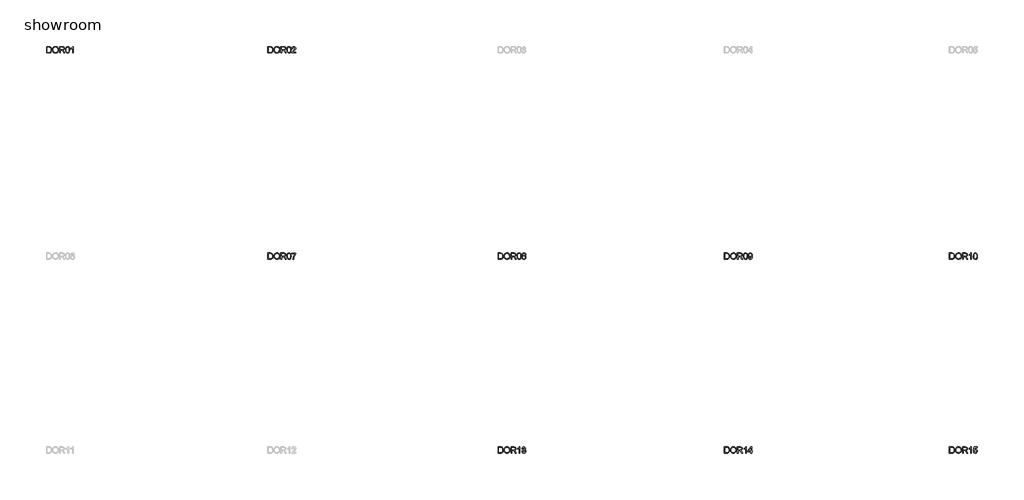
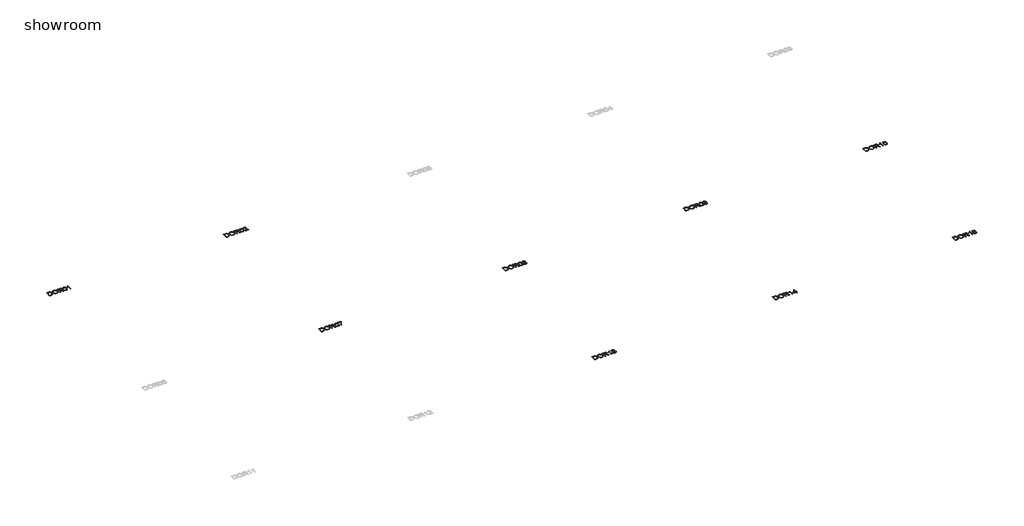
# One storey, part 2 of 4: 9 proxies.
"""IFC4 building model written with IfcOpenShell, lengths in millimetres."""

from ifc_helpers import new_model, si_unit, origin, origin_with_axes, place, context, project, spatial, polyline, outline, extrude, element, save

model = new_model("IFC4")

# Units and contexts
model_context = context("Model", 3, world=origin())
ifc_project = project(units=[si_unit("LENGTHUNIT", "METRE", prefix="MILLI")], contexts=[model_context])

# Site, building, storey
site = spatial("IfcSite", under=ifc_project)
building = spatial("IfcBuilding", under=site)
storey = spatial("IfcBuildingStorey", under=building, Name="showroom", Elevation=0.0)

# Proxies
placement = place(None, origin())
element("IfcBuildingElementProxy", 1, Name="100mm Arial", ObjectType="100mm Arial", at=placement, inside=storey, context=model_context, shape_type="SweptSolid", body=[
    extrude(outline(polyline([(-1828.1876441, -24.8979193), (-1828.1876441, 75.5583908), (-1793.5331602, 75.5583908), (-1775.6050443, 74.1113883), (-1760.8407135, 66.9254267), (-1748.9458623, 49.7576002), (-1744.9972623, 25.869796), (-1747.6705381, 5.5994981), (-1754.5376687, -9.0299426), (-1763.7101931, -18.1411534), (-1775.7154089, -23.1811367), (-1791.8654284, -24.8979193), (-1828.1876441, -24.8979193)]), holes=[polyline([(-1815.6306053, -12.3408806), (-1793.4105328, -12.3408806), (-1777.2482505, -10.5259961), (-1767.9285733, -5.4001736), (-1760.2888905, 7.0710261), (-1757.554301, 26.0659997), (-1758.8940046, 39.75121), (-1762.9131154, 49.8557021), (-1775.9484008, 60.9902638), (-1793.7538894, 63.0013521), (-1815.6306053, 63.0013521), (-1815.6306053, -12.3408806)])]), origin_with_axes(), (0.0, 0.0, 1.0), 2.0),
    extrude(outline(polyline([(-1732.4402235, 24.0058606), (-1729.0924973, 46.2198017), (-1719.0493189, 63.0258775), (-1703.714771, 73.6024849), (-1684.4929368, 77.1280207), (-1671.31663, 75.4725517), (-1659.5014866, 70.5061448), (-1649.6913, 62.5782878), (-1642.5298639, 52.0384686), (-1638.1520681, 39.3955907), (-1636.6928029, 25.1585575), (-1638.2287102, 10.7314519), (-1642.8364322, -2.0892356), (-1650.2615171, -12.6474489), (-1660.2495133, -20.2871317), (-1671.9634892, -24.9224448), (-1684.5665132, -26.4675492), (-1697.9451551, -24.7599636), (-1709.8277435, -19.6372068), (-1719.6134046, -11.562197), (-1726.7012644, -0.9978524), (-1732.4402235, 24.0058606)]), holes=[polyline([(-1719.8831847, 23.8832332), (-1717.3723901, 8.1685407), (-1709.8400063, -3.8060183), (-1698.5184378, -11.3843874), (-1684.6400896, -13.9105104), (-1670.5594062, -11.3598619), (-1659.2194437, -3.7079164), (-1651.7422422, 8.6345245), (-1649.2498416, 25.2566593), (-1653.5172728, 45.9806784), (-1665.9884724, 59.7026768), (-1684.4193604, 64.5709819), (-1697.926761, 62.2257342), (-1709.4108106, 55.189991), (-1717.2650912, 42.6728061), (-1719.8831847, 23.8832332)])]), origin_with_axes(), (0.0, 0.0, 1.0), 2.0),
    extrude(outline(polyline([(-1619.4268746, -24.8979193), (-1619.4268746, 75.5583908), (-1576.1394265, 75.5583908), (-1556.0408068, 72.8483268), (-1545.0533979, 63.2588694), (-1540.9453823, 48.065343), (-1542.6468365, 38.1693174), (-1547.7511992, 29.9655489), (-1556.4117545, 23.9506783), (-1568.7817866, 20.6213462), (-1561.6448759, 15.2502691), (-1551.4668073, 2.3253483), (-1534.7159138, -24.8979193), (-1549.3085663, -24.8979193), (-1562.3806399, -4.0757984), (-1571.8229444, 9.7075137), (-1578.457083, 16.219025), (-1584.4290341, 18.610258), (-1591.7130976, 19.0517164), (-1606.8698358, 19.0517164), (-1606.8698358, -24.8979193), (-1619.4268746, -24.8979193)]), holes=[polyline([(-1606.8698358, 31.6087551), (-1578.7636514, 31.6087551), (-1564.4285163, 33.3868514), (-1556.2860615, 39.0767596), (-1553.502421, 47.5993592), (-1558.8121845, 58.6603445), (-1575.5998662, 63.0013521), (-1606.8698358, 63.0013521), (-1606.8698358, 31.6087551)])]), origin_with_axes(), (0.0, 0.0, 1.0), 2.0),
    extrude(outline(polyline([(-1523.679454, 24.5208954), (-1519.9883713, 53.4241574), (-1509.0254878, 70.0892118), (-1490.7172272, 75.5583908), (-1476.0509983, 72.3210293), (-1465.9219807, 62.9890893), (-1460.0358688, 48.1266567), (-1457.7550004, 24.5208954), (-1461.4092949, -4.2597394), (-1472.3353902, -20.961582), (-1480.5667498, -25.0910574), (-1490.7172272, -26.4675492), (-1503.7647753, -24.0763162), (-1513.6730637, -16.9026173), (-1521.1778564, 0.0873995), (-1523.679454, 24.5208954)]), holes=[polyline([(-1511.1224152, 24.5454208), (-1509.6508872, 4.7932234), (-1505.2363033, -6.6387096), (-1498.6634783, -12.0925602), (-1490.7172272, -13.9105104), (-1482.7709761, -12.0864288), (-1476.1981511, -6.6141842), (-1471.7835672, 4.8238802), (-1470.3120392, 24.5454208), (-1471.7345162, 43.8530942), (-1476.0019474, 55.373932), (-1482.5625096, 61.094497), (-1490.86438, 63.0013521), (-1498.724792, 61.3213576), (-1505.0400995, 56.2813743), (-1509.6018363, 44.0431666), (-1511.1224152, 24.5454208)])]), origin_with_axes(), (0.0, 0.0, 1.0), 2.0),
    extrude(outline(polyline([(-1399.6786961, -24.8979193), (-1412.2357349, -24.8979193), (-1412.2357349, 53.3873692), (-1424.1305861, 44.9138206), (-1437.3498124, 38.5739876), (-1437.3498124, 50.4443133), (-1418.9434499, 62.1920117), (-1407.7721, 75.5583908), (-1399.6786961, 75.5583908), (-1399.6786961, -24.8979193)])), origin_with_axes(), (0.0, 0.0, 1.0), 2.0),
])
element("IfcBuildingElementProxy", 2, Name="100mm Arial", ObjectType="100mm Arial", at=placement, inside=storey, context=model_context, shape_type="SweptSolid", body=[
    extrude(outline(polyline([(1711.8123559, -24.8979193), (1711.8123559, 75.5583908), (1746.4668398, 75.5583908), (1764.3949557, 74.1113883), (1779.1592865, 66.9254267), (1791.0541377, 49.7576002), (1795.0027377, 25.869796), (1792.3294619, 5.5994981), (1785.4623313, -9.0299426), (1776.2898069, -18.1411534), (1764.2845911, -23.1811367), (1748.1345716, -24.8979193), (1711.8123559, -24.8979193)]), holes=[polyline([(1724.3693947, -12.3408806), (1746.5894672, -12.3408806), (1762.7517495, -10.5259961), (1772.0714267, -5.4001736), (1779.7111095, 7.0710261), (1782.445699, 26.0659997), (1781.1059954, 39.75121), (1777.0868846, 49.8557021), (1764.0515992, 60.9902638), (1746.2461106, 63.0013521), (1724.3693947, 63.0013521), (1724.3693947, -12.3408806)])]), origin_with_axes(), (0.0, 0.0, 1.0), 2.0),
    extrude(outline(polyline([(1807.5597765, 24.0058606), (1810.9075027, 46.2198017), (1820.9506811, 63.0258775), (1836.285229, 73.6024849), (1855.5070632, 77.1280207), (1868.68337, 75.4725517), (1880.4985134, 70.5061448), (1890.3087, 62.5782878), (1897.4701361, 52.0384686), (1901.8479319, 39.3955907), (1903.3071971, 25.1585575), (1901.7712898, 10.7314519), (1897.1635678, -2.0892356), (1889.7384829, -12.6474489), (1879.7504867, -20.2871317), (1868.0365108, -24.9224448), (1855.4334868, -26.4675492), (1842.0548449, -24.7599636), (1830.1722565, -19.6372068), (1820.3865954, -11.562197), (1813.2987356, -0.9978524), (1807.5597765, 24.0058606)]), holes=[polyline([(1820.1168153, 23.8832332), (1822.6276099, 8.1685407), (1830.1599937, -3.8060183), (1841.4815622, -11.3843874), (1855.3599104, -13.9105104), (1869.4405938, -11.3598619), (1880.7805563, -3.7079164), (1888.2577578, 8.6345245), (1890.7501584, 25.2566593), (1886.4827272, 45.9806784), (1874.0115276, 59.7026768), (1855.5806396, 64.5709819), (1842.073239, 62.2257342), (1830.5891894, 55.189991), (1822.7349088, 42.6728061), (1820.1168153, 23.8832332)])]), origin_with_axes(), (0.0, 0.0, 1.0), 2.0),
    extrude(outline(polyline([(1920.5731254, -24.8979193), (1920.5731254, 75.5583908), (1963.8605735, 75.5583908), (1983.9591932, 72.8483268), (1994.9466021, 63.2588694), (1999.0546177, 48.065343), (1997.3531635, 38.1693174), (1992.2488008, 29.9655489), (1983.5882455, 23.9506783), (1971.2182134, 20.6213462), (1978.3551241, 15.2502691), (1988.5331927, 2.3253483), (2005.2840862, -24.8979193), (1990.6914337, -24.8979193), (1977.6193601, -4.0757984), (1968.1770556, 9.7075137), (1961.542917, 16.219025), (1955.5709659, 18.610258), (1948.2869024, 19.0517164), (1933.1301642, 19.0517164), (1933.1301642, -24.8979193), (1920.5731254, -24.8979193)]), holes=[polyline([(1933.1301642, 31.6087551), (1961.2363486, 31.6087551), (1975.5714837, 33.3868514), (1983.7139385, 39.0767596), (1986.497579, 47.5993592), (1981.1878155, 58.6603445), (1964.4001338, 63.0013521), (1933.1301642, 63.0013521), (1933.1301642, 31.6087551)])]), origin_with_axes(), (0.0, 0.0, 1.0), 2.0),
    extrude(outline(polyline([(2016.320546, 24.5208954), (2020.0116287, 53.4241574), (2030.9745122, 70.0892118), (2049.2827728, 75.5583908), (2063.9490017, 72.3210293), (2074.0780193, 62.9890893), (2079.9641312, 48.1266567), (2082.2449996, 24.5208954), (2078.5907051, -4.2597394), (2067.6646098, -20.961582), (2059.4332502, -25.0910574), (2049.2827728, -26.4675492), (2036.2352247, -24.0763162), (2026.3269363, -16.9026173), (2018.8221436, 0.0873995), (2016.320546, 24.5208954)]), holes=[polyline([(2028.8775848, 24.5454208), (2030.3491128, 4.7932234), (2034.7636967, -6.6387096), (2041.3365217, -12.0925602), (2049.2827728, -13.9105104), (2057.2290239, -12.0864288), (2063.8018489, -6.6141842), (2068.2164328, 4.8238802), (2069.6879608, 24.5454208), (2068.2654838, 43.8530942), (2063.9980526, 55.373932), (2057.4374904, 61.094497), (2049.13562, 63.0013521), (2041.275208, 61.3213576), (2034.9599005, 56.2813743), (2030.3981637, 44.0431666), (2028.8775848, 24.5454208)])]), origin_with_axes(), (0.0, 0.0, 1.0), 2.0),
    extrude(outline(polyline([(2157.5872322, -12.3408806), (2157.5872322, -24.8979193), (2091.6627787, -24.8979193), (2093.0116793, -16.2404297), (2100.6390993, -2.9108387), (2116.3599233, 11.6450255), (2138.0404355, 32.5652483), (2143.4605636, 46.7900188), (2138.3470038, 58.3047252), (2124.9928874, 63.0013521), (2111.0746853, 58.4150898), (2105.7894473, 45.7354237), (2093.2324085, 47.3050536), (2096.276632, 59.4512908), (2102.858654, 68.3233782), (2112.6351181, 73.7496377), (2125.2626675, 75.5583908), (2137.9821875, 73.5473026), (2147.7402575, 67.5140379), (2153.9482661, 58.500929), (2156.0176023, 47.5503083), (2153.7857849, 35.6431943), (2146.3668313, 23.3314102), (2128.3774018, 6.1267956), (2113.9319021, -5.9519966), (2108.2665194, -12.3408806), (2157.5872322, -12.3408806)])), origin_with_axes(), (0.0, 0.0, 1.0), 2.0),
])
element("IfcBuildingElementProxy", 3, Name="100mm Arial", ObjectType="100mm Arial", at=placement, inside=storey, context=model_context, shape_type="SweptSolid", body=[
    extrude(outline(polyline([(1711.8123559, -3324.8979193), (1711.8123559, -3224.4416092), (1746.4668398, -3224.4416092), (1764.3949557, -3225.8886117), (1779.1592865, -3233.0745733), (1791.0541377, -3250.2423998), (1795.0027377, -3274.130204), (1792.3294619, -3294.4005019), (1785.4623313, -3309.0299426), (1776.2898069, -3318.1411534), (1764.2845911, -3323.1811367), (1748.1345716, -3324.8979193), (1711.8123559, -3324.8979193)]), holes=[polyline([(1724.3693947, -3312.3408806), (1746.5894672, -3312.3408806), (1762.7517495, -3310.5259961), (1772.0714267, -3305.4001736), (1779.7111095, -3292.9289739), (1782.445699, -3273.9340003), (1781.1059954, -3260.24879), (1777.0868846, -3250.1442979), (1764.0515992, -3239.0097362), (1746.2461106, -3236.9986479), (1724.3693947, -3236.9986479), (1724.3693947, -3312.3408806)])]), origin_with_axes(), (0.0, 0.0, 1.0), 2.0),
    extrude(outline(polyline([(1807.5597765, -3275.9941394), (1810.9075027, -3253.7801983), (1820.9506811, -3236.9741225), (1836.285229, -3226.3975151), (1855.5070632, -3222.8719793), (1868.68337, -3224.5274483), (1880.4985134, -3229.4938552), (1890.3087, -3237.4217122), (1897.4701361, -3247.9615314), (1901.8479319, -3260.6044093), (1903.3071971, -3274.8414425), (1901.7712898, -3289.2685481), (1897.1635678, -3302.0892356), (1889.7384829, -3312.6474489), (1879.7504867, -3320.2871317), (1868.0365108, -3324.9224448), (1855.4334868, -3326.4675492), (1842.0548449, -3324.7599636), (1830.1722565, -3319.6372068), (1820.3865954, -3311.562197), (1813.2987356, -3300.9978524), (1807.5597765, -3275.9941394)]), holes=[polyline([(1820.1168153, -3276.1167668), (1822.6276099, -3291.8314593), (1830.1599937, -3303.8060183), (1841.4815622, -3311.3843874), (1855.3599104, -3313.9105104), (1869.4405938, -3311.3598619), (1880.7805563, -3303.7079164), (1888.2577578, -3291.3654755), (1890.7501584, -3274.7433407), (1886.4827272, -3254.0193216), (1874.0115276, -3240.2973232), (1855.5806396, -3235.4290181), (1842.073239, -3237.7742658), (1830.5891894, -3244.810009), (1822.7349088, -3257.3271939), (1820.1168153, -3276.1167668)])]), origin_with_axes(), (0.0, 0.0, 1.0), 2.0),
    extrude(outline(polyline([(1920.5731254, -3324.8979193), (1920.5731254, -3224.4416092), (1963.8605735, -3224.4416092), (1983.9591932, -3227.1516732), (1994.9466021, -3236.7411306), (1999.0546177, -3251.934657), (1997.3531635, -3261.8306826), (1992.2488008, -3270.0344511), (1983.5882455, -3276.0493217), (1971.2182134, -3279.3786538), (1978.3551241, -3284.7497309), (1988.5331927, -3297.6746517), (2005.2840862, -3324.8979193), (1990.6914337, -3324.8979193), (1977.6193601, -3304.0757984), (1968.1770556, -3290.2924863), (1961.542917, -3283.780975), (1955.5709659, -3281.389742), (1948.2869024, -3280.9482836), (1933.1301642, -3280.9482836), (1933.1301642, -3324.8979193), (1920.5731254, -3324.8979193)]), holes=[polyline([(1933.1301642, -3268.3912449), (1961.2363486, -3268.3912449), (1975.5714837, -3266.6131486), (1983.7139385, -3260.9232404), (1986.497579, -3252.4006408), (1981.1878155, -3241.3396555), (1964.4001338, -3236.9986479), (1933.1301642, -3236.9986479), (1933.1301642, -3268.3912449)])]), origin_with_axes(), (0.0, 0.0, 1.0), 2.0),
    extrude(outline(polyline([(2016.320546, -3275.4791046), (2020.0116287, -3246.5758426), (2030.9745122, -3229.9107882), (2049.2827728, -3224.4416092), (2063.9490017, -3227.6789707), (2074.0780193, -3237.0109107), (2079.9641312, -3251.8733433), (2082.2449996, -3275.4791046), (2078.5907051, -3304.2597394), (2067.6646098, -3320.961582), (2059.4332502, -3325.0910574), (2049.2827728, -3326.4675492), (2036.2352247, -3324.0763162), (2026.3269363, -3316.9026173), (2018.8221436, -3299.9126005), (2016.320546, -3275.4791046)]), holes=[polyline([(2028.8775848, -3275.4545792), (2030.3491128, -3295.2067766), (2034.7636967, -3306.6387096), (2041.3365217, -3312.0925602), (2049.2827728, -3313.9105104), (2057.2290239, -3312.0864288), (2063.8018489, -3306.6141842), (2068.2164328, -3295.1761198), (2069.6879608, -3275.4545792), (2068.2654838, -3256.1469058), (2063.9980526, -3244.626068), (2057.4374904, -3238.905503), (2049.13562, -3236.9986479), (2041.275208, -3238.6786424), (2034.9599005, -3243.7186257), (2030.3981637, -3255.9568334), (2028.8775848, -3275.4545792)])]), origin_with_axes(), (0.0, 0.0, 1.0), 2.0),
    extrude(outline(polyline([(2093.2324085, -3238.5682778), (2093.2324085, -3226.011239), (2159.156862, -3226.011239), (2159.156862, -3236.1647821), (2140.4561939, -3263.1795833), (2126.1455843, -3297.6010753), (2121.4857457, -3324.8979193), (2108.928707, -3324.8979193), (2113.9196394, -3296.5710057), (2127.6171123, -3264.5530094), (2146.5998233, -3238.5682778), (2093.2324085, -3238.5682778)])), origin_with_axes(), (0.0, 0.0, 1.0), 2.0),
])
element("IfcBuildingElementProxy", 4, Name="100mm Arial", ObjectType="100mm Arial", at=placement, inside=storey, context=model_context, shape_type="SweptSolid", body=[
    extrude(outline(polyline([(5391.8123559, -3324.8979193), (5391.8123559, -3224.4416092), (5426.4668398, -3224.4416092), (5444.3949557, -3225.8886117), (5459.1592865, -3233.0745733), (5471.0541377, -3250.2423998), (5475.0027377, -3274.130204), (5472.3294619, -3294.4005019), (5465.4623313, -3309.0299426), (5456.2898069, -3318.1411534), (5444.2845911, -3323.1811367), (5428.1345716, -3324.8979193), (5391.8123559, -3324.8979193)]), holes=[polyline([(5404.3693947, -3312.3408806), (5426.5894672, -3312.3408806), (5442.7517495, -3310.5259961), (5452.0714267, -3305.4001736), (5459.7111095, -3292.9289739), (5462.445699, -3273.9340003), (5461.1059954, -3260.24879), (5457.0868846, -3250.1442979), (5444.0515992, -3239.0097362), (5426.2461106, -3236.9986479), (5404.3693947, -3236.9986479), (5404.3693947, -3312.3408806)])]), origin_with_axes(), (0.0, 0.0, 1.0), 2.0),
    extrude(outline(polyline([(5487.5597765, -3275.9941394), (5490.9075027, -3253.7801983), (5500.9506811, -3236.9741225), (5516.285229, -3226.3975151), (5535.5070632, -3222.8719793), (5548.68337, -3224.5274483), (5560.4985134, -3229.4938552), (5570.3087, -3237.4217122), (5577.4701361, -3247.9615314), (5581.8479319, -3260.6044093), (5583.3071971, -3274.8414425), (5581.7712898, -3289.2685481), (5577.1635678, -3302.0892356), (5569.7384829, -3312.6474489), (5559.7504867, -3320.2871317), (5548.0365108, -3324.9224448), (5535.4334868, -3326.4675492), (5522.0548449, -3324.7599636), (5510.1722565, -3319.6372068), (5500.3865954, -3311.562197), (5493.2987356, -3300.9978524), (5487.5597765, -3275.9941394)]), holes=[polyline([(5500.1168153, -3276.1167668), (5502.6276099, -3291.8314593), (5510.1599937, -3303.8060183), (5521.4815622, -3311.3843874), (5535.3599104, -3313.9105104), (5549.4405938, -3311.3598619), (5560.7805563, -3303.7079164), (5568.2577578, -3291.3654755), (5570.7501584, -3274.7433407), (5566.4827272, -3254.0193216), (5554.0115276, -3240.2973232), (5535.5806396, -3235.4290181), (5522.073239, -3237.7742658), (5510.5891894, -3244.810009), (5502.7349088, -3257.3271939), (5500.1168153, -3276.1167668)])]), origin_with_axes(), (0.0, 0.0, 1.0), 2.0),
    extrude(outline(polyline([(5600.5731254, -3324.8979193), (5600.5731254, -3224.4416092), (5643.8605735, -3224.4416092), (5663.9591932, -3227.1516732), (5674.9466021, -3236.7411306), (5679.0546177, -3251.934657), (5677.3531635, -3261.8306826), (5672.2488008, -3270.0344511), (5663.5882455, -3276.0493217), (5651.2182134, -3279.3786538), (5658.3551241, -3284.7497309), (5668.5331927, -3297.6746517), (5685.2840862, -3324.8979193), (5670.6914337, -3324.8979193), (5657.6193601, -3304.0757984), (5648.1770556, -3290.2924863), (5641.542917, -3283.780975), (5635.5709659, -3281.389742), (5628.2869024, -3280.9482836), (5613.1301642, -3280.9482836), (5613.1301642, -3324.8979193), (5600.5731254, -3324.8979193)]), holes=[polyline([(5613.1301642, -3268.3912449), (5641.2363486, -3268.3912449), (5655.5714837, -3266.6131486), (5663.7139385, -3260.9232404), (5666.497579, -3252.4006408), (5661.1878155, -3241.3396555), (5644.4001338, -3236.9986479), (5613.1301642, -3236.9986479), (5613.1301642, -3268.3912449)])]), origin_with_axes(), (0.0, 0.0, 1.0), 2.0),
    extrude(outline(polyline([(5696.320546, -3275.4791046), (5700.0116287, -3246.5758426), (5710.9745122, -3229.9107882), (5729.2827728, -3224.4416092), (5743.9490017, -3227.6789707), (5754.0780193, -3237.0109107), (5759.9641312, -3251.8733433), (5762.2449996, -3275.4791046), (5758.5907051, -3304.2597394), (5747.6646098, -3320.961582), (5739.4332502, -3325.0910574), (5729.2827728, -3326.4675492), (5716.2352247, -3324.0763162), (5706.3269363, -3316.9026173), (5698.8221436, -3299.9126005), (5696.320546, -3275.4791046)]), holes=[polyline([(5708.8775848, -3275.4545792), (5710.3491128, -3295.2067766), (5714.7636967, -3306.6387096), (5721.3365217, -3312.0925602), (5729.2827728, -3313.9105104), (5737.2290239, -3312.0864288), (5743.8018489, -3306.6141842), (5748.2164328, -3295.1761198), (5749.6879608, -3275.4545792), (5748.2654838, -3256.1469058), (5743.9980526, -3244.626068), (5737.4374904, -3238.905503), (5729.13562, -3236.9986479), (5721.275208, -3238.6786424), (5714.9599005, -3243.7186257), (5710.3981637, -3255.9568334), (5708.8775848, -3275.4545792)])]), origin_with_axes(), (0.0, 0.0, 1.0), 2.0),
    extrude(outline(polyline([(5791.5284064, -3269.5684673), (5780.0872763, -3261.769369), (5776.3716682, -3249.6292631), (5778.3950192, -3239.8129452), (5784.4650721, -3231.7011472), (5793.9012453, -3226.2564937), (5806.022957, -3224.4416092), (5818.2182451, -3226.2994133), (5827.7770457, -3231.8728255), (5833.9574632, -3240.1133822), (5836.0176023, -3249.9726196), (5832.3510451, -3261.8061572), (5821.2287461, -3269.5684673), (5834.5828626, -3279.415442), (5839.156862, -3295.6635634), (5836.8882564, -3307.6687792), (5830.0824395, -3317.5893304), (5819.5732772, -3324.2479945), (5806.1946353, -3326.4675492), (5792.8159934, -3324.2387974), (5782.306831, -3317.5525422), (5775.5010141, -3307.5369548), (5773.2324085, -3295.3202069), (5777.990349, -3278.6919407), (5791.5284064, -3269.5684673)]), holes=[polyline([(5785.7894473, -3294.8787485), (5787.8863746, -3304.3333158), (5795.3053282, -3311.4089128), (5806.2927371, -3313.9105104), (5814.8398622, -3312.5953323), (5821.2532716, -3308.6497979), (5826.5998233, -3295.271156), (5821.0815933, -3281.6349967), (5814.5210311, -3277.5882947), (5805.8758042, -3276.2393941), (5797.4482408, -3277.5699006), (5791.0992107, -3281.5614203), (5785.7894473, -3294.8787485)]), polyline([(5788.928707, -3249.9971451), (5793.3800791, -3259.8563826), (5806.3417881, -3263.6823553), (5819.0459796, -3259.880908), (5823.4605636, -3250.5612308), (5818.8988268, -3240.9104598), (5806.1946353, -3236.9986479), (5793.4536555, -3240.8246207), (5788.928707, -3249.9971451)])]), origin_with_axes(), (0.0, 0.0, 1.0), 2.0),
])
element("IfcBuildingElementProxy", 5, Name="100mm Arial", ObjectType="100mm Arial", at=placement, inside=storey, context=model_context, shape_type="SweptSolid", body=[
    extrude(outline(polyline([(9011.8123559, -3324.8979193), (9011.8123559, -3224.4416092), (9046.4668398, -3224.4416092), (9064.3949557, -3225.8886117), (9079.1592865, -3233.0745733), (9091.0541377, -3250.2423998), (9095.0027377, -3274.130204), (9092.3294619, -3294.4005019), (9085.4623313, -3309.0299426), (9076.2898069, -3318.1411534), (9064.2845911, -3323.1811367), (9048.1345716, -3324.8979193), (9011.8123559, -3324.8979193)]), holes=[polyline([(9024.3693947, -3312.3408806), (9046.5894672, -3312.3408806), (9062.7517495, -3310.5259961), (9072.0714267, -3305.4001736), (9079.7111095, -3292.9289739), (9082.445699, -3273.9340003), (9081.1059954, -3260.24879), (9077.0868846, -3250.1442979), (9064.0515992, -3239.0097362), (9046.2461106, -3236.9986479), (9024.3693947, -3236.9986479), (9024.3693947, -3312.3408806)])]), origin_with_axes(), (0.0, 0.0, 1.0), 2.0),
    extrude(outline(polyline([(9107.5597765, -3275.9941394), (9110.9075027, -3253.7801983), (9120.9506811, -3236.9741225), (9136.285229, -3226.3975151), (9155.5070632, -3222.8719793), (9168.68337, -3224.5274483), (9180.4985134, -3229.4938552), (9190.3087, -3237.4217122), (9197.4701361, -3247.9615314), (9201.8479319, -3260.6044093), (9203.3071971, -3274.8414425), (9201.7712898, -3289.2685481), (9197.1635678, -3302.0892356), (9189.7384829, -3312.6474489), (9179.7504867, -3320.2871317), (9168.0365108, -3324.9224448), (9155.4334868, -3326.4675492), (9142.0548449, -3324.7599636), (9130.1722565, -3319.6372068), (9120.3865954, -3311.562197), (9113.2987356, -3300.9978524), (9107.5597765, -3275.9941394)]), holes=[polyline([(9120.1168153, -3276.1167668), (9122.6276099, -3291.8314593), (9130.1599937, -3303.8060183), (9141.4815622, -3311.3843874), (9155.3599104, -3313.9105104), (9169.4405938, -3311.3598619), (9180.7805563, -3303.7079164), (9188.2577578, -3291.3654755), (9190.7501584, -3274.7433407), (9186.4827272, -3254.0193216), (9174.0115276, -3240.2973232), (9155.5806396, -3235.4290181), (9142.073239, -3237.7742658), (9130.5891894, -3244.810009), (9122.7349088, -3257.3271939), (9120.1168153, -3276.1167668)])]), origin_with_axes(), (0.0, 0.0, 1.0), 2.0),
    extrude(outline(polyline([(9220.5731254, -3324.8979193), (9220.5731254, -3224.4416092), (9263.8605735, -3224.4416092), (9283.9591932, -3227.1516732), (9294.9466021, -3236.7411306), (9299.0546177, -3251.934657), (9297.3531635, -3261.8306826), (9292.2488008, -3270.0344511), (9283.5882455, -3276.0493217), (9271.2182134, -3279.3786538), (9278.3551241, -3284.7497309), (9288.5331927, -3297.6746517), (9305.2840862, -3324.8979193), (9290.6914337, -3324.8979193), (9277.6193601, -3304.0757984), (9268.1770556, -3290.2924863), (9261.542917, -3283.780975), (9255.5709659, -3281.389742), (9248.2869024, -3280.9482836), (9233.1301642, -3280.9482836), (9233.1301642, -3324.8979193), (9220.5731254, -3324.8979193)]), holes=[polyline([(9233.1301642, -3268.3912449), (9261.2363486, -3268.3912449), (9275.5714837, -3266.6131486), (9283.7139385, -3260.9232404), (9286.497579, -3252.4006408), (9281.1878155, -3241.3396555), (9264.4001338, -3236.9986479), (9233.1301642, -3236.9986479), (9233.1301642, -3268.3912449)])]), origin_with_axes(), (0.0, 0.0, 1.0), 2.0),
    extrude(outline(polyline([(9316.320546, -3275.4791046), (9320.0116287, -3246.5758426), (9330.9745122, -3229.9107882), (9349.2827728, -3224.4416092), (9363.9490017, -3227.6789707), (9374.0780193, -3237.0109107), (9379.9641312, -3251.8733433), (9382.2449996, -3275.4791046), (9378.5907051, -3304.2597394), (9367.6646098, -3320.961582), (9359.4332502, -3325.0910574), (9349.2827728, -3326.4675492), (9336.2352247, -3324.0763162), (9326.3269363, -3316.9026173), (9318.8221436, -3299.9126005), (9316.320546, -3275.4791046)]), holes=[polyline([(9328.8775848, -3275.4545792), (9330.3491128, -3295.2067766), (9334.7636967, -3306.6387096), (9341.3365217, -3312.0925602), (9349.2827728, -3313.9105104), (9357.2290239, -3312.0864288), (9363.8018489, -3306.6141842), (9368.2164328, -3295.1761198), (9369.6879608, -3275.4545792), (9368.2654838, -3256.1469058), (9363.9980526, -3244.626068), (9357.4374904, -3238.905503), (9349.13562, -3236.9986479), (9341.275208, -3238.6786424), (9334.9599005, -3243.7186257), (9330.3981637, -3255.9568334), (9328.8775848, -3275.4545792)])]), origin_with_axes(), (0.0, 0.0, 1.0), 2.0),
    extrude(outline(polyline([(9394.8020383, -3299.7838418), (9407.3590771, -3298.2142119), (9412.9999344, -3310.1949023), (9423.6930377, -3313.9105104), (9433.8588435, -3311.5192774), (9440.7504995, -3305.1303935), (9444.8585152, -3294.2165609), (9446.6733997, -3279.6484339), (9446.5998233, -3277.1958873), (9436.5566448, -3286.7117682), (9422.7855954, -3290.3660627), (9411.3352683, -3288.1342453), (9401.804059, -3281.438793), (9395.3753211, -3271.0951775), (9393.2324085, -3257.9188707), (9395.4795544, -3244.3072369), (9402.2209919, -3233.6386591), (9412.3469438, -3226.7408716), (9424.7476328, -3224.4416092), (9442.6389605, -3229.690059), (9454.9507446, -3244.6505934), (9459.156862, -3272.7567779), (9454.9630073, -3303.2541953), (9449.74828, -3313.2452571), (9442.4918077, -3320.5323863), (9433.5062899, -3324.9837585), (9423.1044265, -3326.4675492), (9412.3684036, -3324.717044), (9403.8028845, -3319.4655285), (9397.8125393, -3311.0440965), (9394.8020383, -3299.7838418)]), holes=[polyline([(9446.5998233, -3257.6245651), (9445.2447913, -3249.1142283), (9441.1796952, -3242.5659288), (9434.870519, -3238.3904682), (9426.7832465, -3236.9986479), (9418.395537, -3238.4977671), (9411.6755592, -3242.9951245), (9407.2609752, -3249.8775835), (9405.7894473, -3258.5320074), (9407.1812675, -3266.2912518), (9411.3567281, -3272.4502095), (9417.911159, -3276.4693203), (9426.4398899, -3277.8090239), (9440.9221778, -3272.4502095), (9445.1804119, -3266.0643912), (9446.5998233, -3257.6245651)])]), origin_with_axes(), (0.0, 0.0, 1.0), 2.0),
])
element("IfcBuildingElementProxy", 6, Name="100mm Arial", ObjectType="100mm Arial", at=placement, inside=storey, context=model_context, shape_type="SweptSolid", body=[
    extrude(outline(polyline([(12611.8123559, -3324.8979193), (12611.8123559, -3224.4416092), (12646.4668398, -3224.4416092), (12664.3949557, -3225.8886117), (12679.1592865, -3233.0745733), (12691.0541377, -3250.2423998), (12695.0027377, -3274.130204), (12692.3294619, -3294.4005019), (12685.4623313, -3309.0299426), (12676.2898069, -3318.1411534), (12664.2845911, -3323.1811367), (12648.1345716, -3324.8979193), (12611.8123559, -3324.8979193)]), holes=[polyline([(12624.3693947, -3312.3408806), (12646.5894672, -3312.3408806), (12662.7517495, -3310.5259961), (12672.0714267, -3305.4001736), (12679.7111095, -3292.9289739), (12682.445699, -3273.9340003), (12681.1059954, -3260.24879), (12677.0868846, -3250.1442979), (12664.0515992, -3239.0097362), (12646.2461106, -3236.9986479), (12624.3693947, -3236.9986479), (12624.3693947, -3312.3408806)])]), origin_with_axes(), (0.0, 0.0, 1.0), 2.0),
    extrude(outline(polyline([(12707.5597765, -3275.9941394), (12710.9075027, -3253.7801983), (12720.9506811, -3236.9741225), (12736.285229, -3226.3975151), (12755.5070632, -3222.8719793), (12768.68337, -3224.5274483), (12780.4985134, -3229.4938552), (12790.3087, -3237.4217122), (12797.4701361, -3247.9615314), (12801.8479319, -3260.6044093), (12803.3071971, -3274.8414425), (12801.7712898, -3289.2685481), (12797.1635678, -3302.0892356), (12789.7384829, -3312.6474489), (12779.7504867, -3320.2871317), (12768.0365108, -3324.9224448), (12755.4334868, -3326.4675492), (12742.0548449, -3324.7599636), (12730.1722565, -3319.6372068), (12720.3865954, -3311.562197), (12713.2987356, -3300.9978524), (12707.5597765, -3275.9941394)]), holes=[polyline([(12720.1168153, -3276.1167668), (12722.6276099, -3291.8314593), (12730.1599937, -3303.8060183), (12741.4815622, -3311.3843874), (12755.3599104, -3313.9105104), (12769.4405938, -3311.3598619), (12780.7805563, -3303.7079164), (12788.2577578, -3291.3654755), (12790.7501584, -3274.7433407), (12786.4827272, -3254.0193216), (12774.0115276, -3240.2973232), (12755.5806396, -3235.4290181), (12742.073239, -3237.7742658), (12730.5891894, -3244.810009), (12722.7349088, -3257.3271939), (12720.1168153, -3276.1167668)])]), origin_with_axes(), (0.0, 0.0, 1.0), 2.0),
    extrude(outline(polyline([(12820.5731254, -3324.8979193), (12820.5731254, -3224.4416092), (12863.8605735, -3224.4416092), (12883.9591932, -3227.1516732), (12894.9466021, -3236.7411306), (12899.0546177, -3251.934657), (12897.3531635, -3261.8306826), (12892.2488008, -3270.0344511), (12883.5882455, -3276.0493217), (12871.2182134, -3279.3786538), (12878.3551241, -3284.7497309), (12888.5331927, -3297.6746517), (12905.2840862, -3324.8979193), (12890.6914337, -3324.8979193), (12877.6193601, -3304.0757984), (12868.1770556, -3290.2924863), (12861.542917, -3283.780975), (12855.5709659, -3281.389742), (12848.2869024, -3280.9482836), (12833.1301642, -3280.9482836), (12833.1301642, -3324.8979193), (12820.5731254, -3324.8979193)]), holes=[polyline([(12833.1301642, -3268.3912449), (12861.2363486, -3268.3912449), (12875.5714837, -3266.6131486), (12883.7139385, -3260.9232404), (12886.497579, -3252.4006408), (12881.1878155, -3241.3396555), (12864.4001338, -3236.9986479), (12833.1301642, -3236.9986479), (12833.1301642, -3268.3912449)])]), origin_with_axes(), (0.0, 0.0, 1.0), 2.0),
    extrude(outline(polyline([(12963.4094414, -3324.8979193), (12950.8524027, -3324.8979193), (12950.8524027, -3246.6126308), (12938.9575515, -3255.0861794), (12925.7383251, -3261.4260124), (12925.7383251, -3249.5556867), (12944.1446876, -3237.8079883), (12955.3160375, -3224.4416092), (12963.4094414, -3224.4416092), (12963.4094414, -3324.8979193)])), origin_with_axes(), (0.0, 0.0, 1.0), 2.0),
    extrude(outline(polyline([(12993.2324085, -3275.4791046), (12996.9234912, -3246.5758426), (13007.8863746, -3229.9107882), (13026.1946353, -3224.4416092), (13040.8608641, -3227.6789707), (13050.9898817, -3237.0109107), (13056.8759937, -3251.8733433), (13059.156862, -3275.4791046), (13055.5025676, -3304.2597394), (13044.5764723, -3320.961582), (13036.3451127, -3325.0910574), (13026.1946353, -3326.4675492), (13013.1470872, -3324.0763162), (13003.2387988, -3316.9026173), (12995.7340061, -3299.9126005), (12993.2324085, -3275.4791046)]), holes=[polyline([(13005.7894473, -3275.4545792), (13007.2609752, -3295.2067766), (13011.6755592, -3306.6387096), (13018.2483842, -3312.0925602), (13026.1946353, -3313.9105104), (13034.1408864, -3312.0864288), (13040.7137113, -3306.6141842), (13045.1282953, -3295.1761198), (13046.5998233, -3275.4545792), (13045.1773462, -3256.1469058), (13040.9099151, -3244.626068), (13034.3493528, -3238.905503), (13026.0474825, -3236.9986479), (13018.1870705, -3238.6786424), (13011.8717629, -3243.7186257), (13007.3100262, -3255.9568334), (13005.7894473, -3275.4545792)])]), origin_with_axes(), (0.0, 0.0, 1.0), 2.0),
])
element("IfcBuildingElementProxy", 7, Name="100mm Arial", ObjectType="100mm Arial", at=placement, inside=storey, context=model_context, shape_type="SweptSolid", body=[
    extrude(outline(polyline([(5391.8123559, -6424.8979193), (5391.8123559, -6324.4416092), (5426.4668398, -6324.4416092), (5444.3949557, -6325.8886117), (5459.1592865, -6333.0745733), (5471.0541377, -6350.2423998), (5475.0027377, -6374.130204), (5472.3294619, -6394.4005019), (5465.4623313, -6409.0299426), (5456.2898069, -6418.1411534), (5444.2845911, -6423.1811367), (5428.1345716, -6424.8979193), (5391.8123559, -6424.8979193)]), holes=[polyline([(5404.3693947, -6412.3408806), (5426.5894672, -6412.3408806), (5442.7517495, -6410.5259961), (5452.0714267, -6405.4001736), (5459.7111095, -6392.9289739), (5462.445699, -6373.9340003), (5461.1059954, -6360.24879), (5457.0868846, -6350.1442979), (5444.0515992, -6339.0097362), (5426.2461106, -6336.9986479), (5404.3693947, -6336.9986479), (5404.3693947, -6412.3408806)])]), origin_with_axes(), (0.0, 0.0, 1.0), 2.0),
    extrude(outline(polyline([(5487.5597765, -6375.9941394), (5490.9075027, -6353.7801983), (5500.9506811, -6336.9741225), (5516.285229, -6326.3975151), (5535.5070632, -6322.8719793), (5548.68337, -6324.5274483), (5560.4985134, -6329.4938552), (5570.3087, -6337.4217122), (5577.4701361, -6347.9615314), (5581.8479319, -6360.6044093), (5583.3071971, -6374.8414425), (5581.7712898, -6389.2685481), (5577.1635678, -6402.0892356), (5569.7384829, -6412.6474489), (5559.7504867, -6420.2871317), (5548.0365108, -6424.9224448), (5535.4334868, -6426.4675492), (5522.0548449, -6424.7599636), (5510.1722565, -6419.6372068), (5500.3865954, -6411.562197), (5493.2987356, -6400.9978524), (5487.5597765, -6375.9941394)]), holes=[polyline([(5500.1168153, -6376.1167668), (5502.6276099, -6391.8314593), (5510.1599937, -6403.8060183), (5521.4815622, -6411.3843874), (5535.3599104, -6413.9105104), (5549.4405938, -6411.3598619), (5560.7805563, -6403.7079164), (5568.2577578, -6391.3654755), (5570.7501584, -6374.7433407), (5566.4827272, -6354.0193216), (5554.0115276, -6340.2973232), (5535.5806396, -6335.4290181), (5522.073239, -6337.7742658), (5510.5891894, -6344.810009), (5502.7349088, -6357.3271939), (5500.1168153, -6376.1167668)])]), origin_with_axes(), (0.0, 0.0, 1.0), 2.0),
    extrude(outline(polyline([(5600.5731254, -6424.8979193), (5600.5731254, -6324.4416092), (5643.8605735, -6324.4416092), (5663.9591932, -6327.1516732), (5674.9466021, -6336.7411306), (5679.0546177, -6351.934657), (5677.3531635, -6361.8306826), (5672.2488008, -6370.0344511), (5663.5882455, -6376.0493217), (5651.2182134, -6379.3786538), (5658.3551241, -6384.7497309), (5668.5331927, -6397.6746517), (5685.2840862, -6424.8979193), (5670.6914337, -6424.8979193), (5657.6193601, -6404.0757984), (5648.1770556, -6390.2924863), (5641.542917, -6383.780975), (5635.5709659, -6381.389742), (5628.2869024, -6380.9482836), (5613.1301642, -6380.9482836), (5613.1301642, -6424.8979193), (5600.5731254, -6424.8979193)]), holes=[polyline([(5613.1301642, -6368.3912449), (5641.2363486, -6368.3912449), (5655.5714837, -6366.6131486), (5663.7139385, -6360.9232404), (5666.497579, -6352.4006408), (5661.1878155, -6341.3396555), (5644.4001338, -6336.9986479), (5613.1301642, -6336.9986479), (5613.1301642, -6368.3912449)])]), origin_with_axes(), (0.0, 0.0, 1.0), 2.0),
    extrude(outline(polyline([(5743.4094414, -6424.8979193), (5730.8524027, -6424.8979193), (5730.8524027, -6346.6126308), (5718.9575515, -6355.0861794), (5705.7383251, -6361.4260124), (5705.7383251, -6349.5556867), (5724.1446876, -6337.8079883), (5735.3160375, -6324.4416092), (5743.4094414, -6324.4416092), (5743.4094414, -6424.8979193)])), origin_with_axes(), (0.0, 0.0, 1.0), 2.0),
    extrude(outline(polyline([(5773.2324085, -6398.2142119), (5785.7894473, -6396.6445821), (5792.7178915, -6409.8638085), (5805.6796005, -6413.9105104), (5814.2880392, -6412.5186902), (5820.9344405, -6408.3432295), (5826.5998233, -6394.5599175), (5820.9834915, -6381.573683), (5806.7096701, -6376.4355978), (5797.9050276, -6377.8090239), (5799.3029792, -6365.2519852), (5801.3140675, -6365.399138), (5815.5633634, -6361.7938944), (5820.3090411, -6357.2198949), (5821.8909337, -6350.7083836), (5817.3046715, -6340.8859344), (5805.4833967, -6336.9986479), (5793.5149692, -6340.9227226), (5787.3590771, -6352.6949464), (5774.8020383, -6351.1253166), (5778.4992524, -6339.8497334), (5785.0782087, -6331.4313671), (5794.0790549, -6326.1890487), (5805.0419383, -6324.4416092), (5820.1864138, -6327.8874372), (5830.7814153, -6337.3052163), (5834.4479725, -6349.9726196), (5830.9653563, -6361.5486398), (5820.6646604, -6369.8627728), (5834.3498706, -6378.4466861), (5839.156862, -6394.7806467), (5836.7533663, -6407.0188544), (5829.5428792, -6417.2459738), (5818.6597035, -6424.1621553), (5805.2381421, -6426.4675492), (5793.0980362, -6424.4993805), (5783.2142733, -6418.5948745), (5776.3410114, -6409.5633715), (5773.2324085, -6398.2142119)])), origin_with_axes(), (0.0, 0.0, 1.0), 2.0),
])
element("IfcBuildingElementProxy", 8, Name="100mm Arial", ObjectType="100mm Arial", at=placement, inside=storey, context=model_context, shape_type="SweptSolid", body=[
    extrude(outline(polyline([(9011.8123559, -6424.8979193), (9011.8123559, -6324.4416092), (9046.4668398, -6324.4416092), (9064.3949557, -6325.8886117), (9079.1592865, -6333.0745733), (9091.0541377, -6350.2423998), (9095.0027377, -6374.130204), (9092.3294619, -6394.4005019), (9085.4623313, -6409.0299426), (9076.2898069, -6418.1411534), (9064.2845911, -6423.1811367), (9048.1345716, -6424.8979193), (9011.8123559, -6424.8979193)]), holes=[polyline([(9024.3693947, -6412.3408806), (9046.5894672, -6412.3408806), (9062.7517495, -6410.5259961), (9072.0714267, -6405.4001736), (9079.7111095, -6392.9289739), (9082.445699, -6373.9340003), (9081.1059954, -6360.24879), (9077.0868846, -6350.1442979), (9064.0515992, -6339.0097362), (9046.2461106, -6336.9986479), (9024.3693947, -6336.9986479), (9024.3693947, -6412.3408806)])]), origin_with_axes(), (0.0, 0.0, 1.0), 2.0),
    extrude(outline(polyline([(9107.5597765, -6375.9941394), (9110.9075027, -6353.7801983), (9120.9506811, -6336.9741225), (9136.285229, -6326.3975151), (9155.5070632, -6322.8719793), (9168.68337, -6324.5274483), (9180.4985134, -6329.4938552), (9190.3087, -6337.4217122), (9197.4701361, -6347.9615314), (9201.8479319, -6360.6044093), (9203.3071971, -6374.8414425), (9201.7712898, -6389.2685481), (9197.1635678, -6402.0892356), (9189.7384829, -6412.6474489), (9179.7504867, -6420.2871317), (9168.0365108, -6424.9224448), (9155.4334868, -6426.4675492), (9142.0548449, -6424.7599636), (9130.1722565, -6419.6372068), (9120.3865954, -6411.562197), (9113.2987356, -6400.9978524), (9107.5597765, -6375.9941394)]), holes=[polyline([(9120.1168153, -6376.1167668), (9122.6276099, -6391.8314593), (9130.1599937, -6403.8060183), (9141.4815622, -6411.3843874), (9155.3599104, -6413.9105104), (9169.4405938, -6411.3598619), (9180.7805563, -6403.7079164), (9188.2577578, -6391.3654755), (9190.7501584, -6374.7433407), (9186.4827272, -6354.0193216), (9174.0115276, -6340.2973232), (9155.5806396, -6335.4290181), (9142.073239, -6337.7742658), (9130.5891894, -6344.810009), (9122.7349088, -6357.3271939), (9120.1168153, -6376.1167668)])]), origin_with_axes(), (0.0, 0.0, 1.0), 2.0),
    extrude(outline(polyline([(9220.5731254, -6424.8979193), (9220.5731254, -6324.4416092), (9263.8605735, -6324.4416092), (9283.9591932, -6327.1516732), (9294.9466021, -6336.7411306), (9299.0546177, -6351.934657), (9297.3531635, -6361.8306826), (9292.2488008, -6370.0344511), (9283.5882455, -6376.0493217), (9271.2182134, -6379.3786538), (9278.3551241, -6384.7497309), (9288.5331927, -6397.6746517), (9305.2840862, -6424.8979193), (9290.6914337, -6424.8979193), (9277.6193601, -6404.0757984), (9268.1770556, -6390.2924863), (9261.542917, -6383.780975), (9255.5709659, -6381.389742), (9248.2869024, -6380.9482836), (9233.1301642, -6380.9482836), (9233.1301642, -6424.8979193), (9220.5731254, -6424.8979193)]), holes=[polyline([(9233.1301642, -6368.3912449), (9261.2363486, -6368.3912449), (9275.5714837, -6366.6131486), (9283.7139385, -6360.9232404), (9286.497579, -6352.4006408), (9281.1878155, -6341.3396555), (9264.4001338, -6336.9986479), (9233.1301642, -6336.9986479), (9233.1301642, -6368.3912449)])]), origin_with_axes(), (0.0, 0.0, 1.0), 2.0),
    extrude(outline(polyline([(9363.4094414, -6424.8979193), (9350.8524027, -6424.8979193), (9350.8524027, -6346.6126308), (9338.9575515, -6355.0861794), (9325.7383251, -6361.4260124), (9325.7383251, -6349.5556867), (9344.1446876, -6337.8079883), (9355.3160375, -6324.4416092), (9363.4094414, -6324.4416092), (9363.4094414, -6424.8979193)])), origin_with_axes(), (0.0, 0.0, 1.0), 2.0),
    extrude(outline(polyline([(9434.0427845, -6424.8979193), (9434.0427845, -6401.3534716), (9388.523519, -6401.3534716), (9388.523519, -6388.7964329), (9437.1820442, -6326.011239), (9446.5998233, -6326.011239), (9446.5998233, -6388.7964329), (9459.156862, -6388.7964329), (9459.156862, -6401.3534716), (9446.5998233, -6401.3534716), (9446.5998233, -6424.8979193), (9434.0427845, -6424.8979193)]), holes=[polyline([(9434.0427845, -6388.7964329), (9434.0427845, -6349.9971451), (9403.9745628, -6388.7964329), (9434.0427845, -6388.7964329)])]), origin_with_axes(), (0.0, 0.0, 1.0), 2.0),
])
element("IfcBuildingElementProxy", 9, Name="100mm Arial", ObjectType="100mm Arial", at=placement, inside=storey, context=model_context, shape_type="SweptSolid", body=[
    extrude(outline(polyline([(12611.8123559, -6424.8979193), (12611.8123559, -6324.4416092), (12646.4668398, -6324.4416092), (12664.3949557, -6325.8886117), (12679.1592865, -6333.0745733), (12691.0541377, -6350.2423998), (12695.0027377, -6374.130204), (12692.3294619, -6394.4005019), (12685.4623313, -6409.0299426), (12676.2898069, -6418.1411534), (12664.2845911, -6423.1811367), (12648.1345716, -6424.8979193), (12611.8123559, -6424.8979193)]), holes=[polyline([(12624.3693947, -6412.3408806), (12646.5894672, -6412.3408806), (12662.7517495, -6410.5259961), (12672.0714267, -6405.4001736), (12679.7111095, -6392.9289739), (12682.445699, -6373.9340003), (12681.1059954, -6360.24879), (12677.0868846, -6350.1442979), (12664.0515992, -6339.0097362), (12646.2461106, -6336.9986479), (12624.3693947, -6336.9986479), (12624.3693947, -6412.3408806)])]), origin_with_axes(), (0.0, 0.0, 1.0), 2.0),
    extrude(outline(polyline([(12707.5597765, -6375.9941394), (12710.9075027, -6353.7801983), (12720.9506811, -6336.9741225), (12736.285229, -6326.3975151), (12755.5070632, -6322.8719793), (12768.68337, -6324.5274483), (12780.4985134, -6329.4938552), (12790.3087, -6337.4217122), (12797.4701361, -6347.9615314), (12801.8479319, -6360.6044093), (12803.3071971, -6374.8414425), (12801.7712898, -6389.2685481), (12797.1635678, -6402.0892356), (12789.7384829, -6412.6474489), (12779.7504867, -6420.2871317), (12768.0365108, -6424.9224448), (12755.4334868, -6426.4675492), (12742.0548449, -6424.7599636), (12730.1722565, -6419.6372068), (12720.3865954, -6411.562197), (12713.2987356, -6400.9978524), (12707.5597765, -6375.9941394)]), holes=[polyline([(12720.1168153, -6376.1167668), (12722.6276099, -6391.8314593), (12730.1599937, -6403.8060183), (12741.4815622, -6411.3843874), (12755.3599104, -6413.9105104), (12769.4405938, -6411.3598619), (12780.7805563, -6403.7079164), (12788.2577578, -6391.3654755), (12790.7501584, -6374.7433407), (12786.4827272, -6354.0193216), (12774.0115276, -6340.2973232), (12755.5806396, -6335.4290181), (12742.073239, -6337.7742658), (12730.5891894, -6344.810009), (12722.7349088, -6357.3271939), (12720.1168153, -6376.1167668)])]), origin_with_axes(), (0.0, 0.0, 1.0), 2.0),
    extrude(outline(polyline([(12820.5731254, -6424.8979193), (12820.5731254, -6324.4416092), (12863.8605735, -6324.4416092), (12883.9591932, -6327.1516732), (12894.9466021, -6336.7411306), (12899.0546177, -6351.934657), (12897.3531635, -6361.8306826), (12892.2488008, -6370.0344511), (12883.5882455, -6376.0493217), (12871.2182134, -6379.3786538), (12878.3551241, -6384.7497309), (12888.5331927, -6397.6746517), (12905.2840862, -6424.8979193), (12890.6914337, -6424.8979193), (12877.6193601, -6404.0757984), (12868.1770556, -6390.2924863), (12861.542917, -6383.780975), (12855.5709659, -6381.389742), (12848.2869024, -6380.9482836), (12833.1301642, -6380.9482836), (12833.1301642, -6424.8979193), (12820.5731254, -6424.8979193)]), holes=[polyline([(12833.1301642, -6368.3912449), (12861.2363486, -6368.3912449), (12875.5714837, -6366.6131486), (12883.7139385, -6360.9232404), (12886.497579, -6352.4006408), (12881.1878155, -6341.3396555), (12864.4001338, -6336.9986479), (12833.1301642, -6336.9986479), (12833.1301642, -6368.3912449)])]), origin_with_axes(), (0.0, 0.0, 1.0), 2.0),
    extrude(outline(polyline([(12963.4094414, -6424.8979193), (12950.8524027, -6424.8979193), (12950.8524027, -6346.6126308), (12938.9575515, -6355.0861794), (12925.7383251, -6361.4260124), (12925.7383251, -6349.5556867), (12944.1446876, -6337.8079883), (12955.3160375, -6324.4416092), (12963.4094414, -6324.4416092), (12963.4094414, -6424.8979193)])), origin_with_axes(), (0.0, 0.0, 1.0), 2.0),
    extrude(outline(polyline([(12993.2324085, -6398.2142119), (13005.7894473, -6396.6445821), (13012.1170176, -6409.5817656), (13025.2381421, -6413.9105104), (13034.2389882, -6412.4052599), (13040.9834915, -6407.8895084), (13045.1957403, -6400.8844221), (13046.5998233, -6391.9111671), (13041.3391107, -6376.9996836), (13034.7325632, -6372.8977993), (13025.4343458, -6371.5305046), (13014.4101487, -6373.7132711), (13007.3590771, -6379.3786538), (12994.8020383, -6377.8090239), (13005.7894473, -6326.011239), (13054.4479725, -6326.011239), (13054.4479725, -6338.5682778), (13015.9429903, -6338.5682778), (13010.5719132, -6366.2330038), (13019.5421025, -6360.7883503), (13028.9414875, -6358.9734658), (13040.6738575, -6361.2236773), (13050.4135333, -6367.9743119), (13056.9710298, -6378.2627451), (13059.156862, -6391.1263522), (13057.1886934, -6403.6833909), (13051.2841873, -6414.4255452), (13039.9779474, -6423.4570482), (13025.1890911, -6426.4675492), (13012.8558473, -6424.533103), (13003.0303323, -6418.7297645), (12996.2950261, -6409.7319841), (12993.2324085, -6398.2142119)])), origin_with_axes(), (0.0, 0.0, 1.0), 2.0),
])

save(model, "model.ifc")
